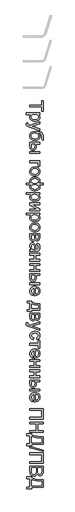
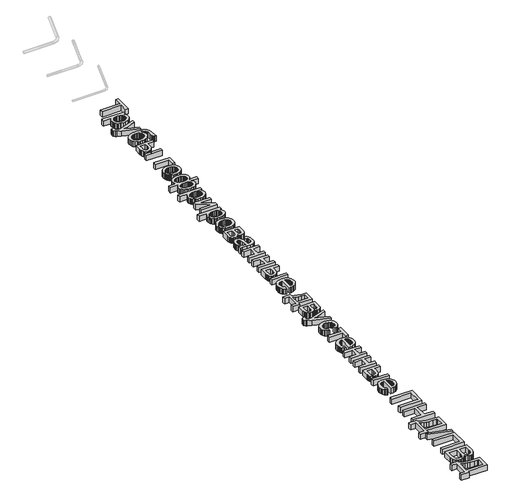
# One storey, part 28 of 33: 1 proxy.
"""IFC4 building model written with IfcOpenShell, lengths in millimetres."""

from ifc_helpers import new_model, si_unit, origin, origin_with_axes, place, context, project, spatial, polyline, outline, extrude, element, save

model = new_model("IFC4")

# Units and contexts
model_context = context("Model", 3, world=origin())
ifc_project = project(units=[si_unit("LENGTHUNIT", "METRE", prefix="MILLI")], contexts=[model_context])

# Site, building, storey
site = spatial("IfcSite", under=ifc_project)
building = spatial("IfcBuilding", under=site)
storey = spatial("IfcBuildingStorey", under=building, Name="Уровень 1", Elevation=0.0)

# Proxy
placement = place(None, origin())
element("IfcBuildingElementProxy", 1, Name="Надпись на модели 1", ObjectType="Надпись на модели 1", at=placement, inside=storey, context=model_context, shape_type="SweptSolid", body=[
    extrude(outline(polyline([(94024.4625724, -945.4132915), (94541.3856493, -945.4132915), (94541.3856493, -751.5671377), (94615.2318032, -751.5671377), (94615.2318032, -1213.1055992), (94541.3856493, -1213.1055992), (94541.3856493, -1019.2594454), (94024.4625724, -1019.2594454), (94024.4625724, -945.4132915)])), origin_with_axes(), (0.0, 0.0, 1.0), 150.0),
    extrude(outline(polyline([(93858.3087262, -1286.9517531), (94458.3087262, -1286.9517531), (94458.3087262, -1360.7979069), (94385.9048801, -1360.7979069), (94421.6200243, -1384.8844454), (94447.1308416, -1411.8555992), (94462.437332, -1443.2979069), (94467.5394955, -1480.7979069), (94465.7546397, -1506.5521136), (94460.4000724, -1530.7378107), (94451.4757936, -1553.3549982), (94438.9818032, -1574.4036761), (94423.2426205, -1593.4241088), (94404.5827647, -1609.9565607), (94383.0022359, -1624.0010319), (94358.5010339, -1635.5575223), (94304.0899762, -1651.0262723), (94244.702957, -1656.1825223), (94181.5479089, -1650.359205), (94152.4718873, -1643.0800583), (94125.0635339, -1632.8892531), (94100.0394955, -1619.9265127), (94078.1164186, -1604.3315607), (94059.2943032, -1586.1043973), (94043.5731493, -1565.2450223), (94031.1738104, -1542.7765728), (94022.3171397, -1519.7221857), (94017.0031373, -1496.0818612), (94015.2318032, -1471.8555992), (94019.9733897, -1437.9072819), (94034.1981493, -1407.6007915), (94055.6705051, -1381.6572819), (94082.1548801, -1360.7979069), (93858.3087262, -1360.7979069), (93858.3087262, -1286.9517531)]), holes=[polyline([(94237.9241109, -1360.7979069), (94202.3351686, -1362.7946016), (94171.7221878, -1368.7846857), (94146.0851686, -1378.7681593), (94125.4241109, -1392.7450223), (94109.5226686, -1409.570443), (94098.1644955, -1428.0995896), (94091.3495916, -1448.3324622), (94089.077957, -1470.2690607), (94091.4307214, -1492.5211641), (94098.4890147, -1513.1236281), (94110.2528368, -1532.0764526), (94126.7221878, -1549.3796377), (94148.1314426, -1563.7982074), (94174.7149762, -1574.0971857), (94206.4727887, -1580.2765728), (94243.4048801, -1582.3363684), (94278.687332, -1580.3261521), (94309.2462262, -1574.2955031), (94335.0815628, -1564.2444213), (94356.1933416, -1550.1729069), (94372.5995916, -1533.3069213), (94384.3183416, -1514.8724261), (94391.3495916, -1494.8694213), (94393.6933416, -1473.2979069), (94391.2008537, -1451.7940006), (94383.7233897, -1431.5611281), (94371.2609498, -1412.5992891), (94353.8135339, -1394.9084838), (94331.6155171, -1379.9851064), (94304.9012743, -1369.3255511), (94273.6708056, -1362.929818), (94237.9241109, -1360.7979069)])]), origin_with_axes(), (0.0, 0.0, 1.0), 150.0),
    extrude(outline(polyline([(93858.3087262, -1739.2594454), (93929.4144955, -1730.0286761), (93922.9241109, -1767.5286761), (93924.9613705, -1787.2522338), (93931.0731493, -1802.5767531), (93940.8267551, -1814.5118492), (93953.7894955, -1824.0671377), (94008.1644955, -1844.2594454), (94026.0491109, -1850.0286761), (94458.3087262, -1693.1055992), (94458.3087262, -1770.9902146), (94217.4433416, -1854.2113684), (94121.0971878, -1883.2017531), (94206.1933416, -1912.1921377), (94458.3087262, -1997.7209838), (94458.3087262, -2075.0286761), (94014.077957, -1924.0190607), (93917.7318032, -1884.7882915), (93886.9745916, -1864.7041569), (93865.6644955, -1841.9517531), (93853.2245916, -1815.5214646), (93849.077957, -1784.4036761), (93851.3856493, -1763.0214646), (93858.3087262, -1739.2594454)])), origin_with_axes(), (0.0, 0.0, 1.0), 150.0),
    extrude(outline(polyline([(94624.4625724, -2440.7979069), (94624.4625724, -2505.4132915), (94589.3604089, -2498.4180992), (94566.8423801, -2486.37483), (94553.5190628, -2469.6801184), (94546.0010339, -2448.7305992), (94542.5394955, -2414.5839646), (94541.3856493, -2358.2979069), (94537.1308416, -2283.2077627), (94531.812332, -2256.304217), (94524.3664186, -2236.4950223), (94514.5767551, -2221.3778348), (94502.2269955, -2208.5503107), (94487.3171397, -2198.0124502), (94469.8471878, -2189.7642531), (94426.9745916, -2178.7125704), (94373.3568032, -2173.9709838), (94414.6068032, -2203.6644934), (94444.0298801, -2237.93733), (94461.6620916, -2276.8255511), (94467.5394955, -2320.3652146), (94463.8030171, -2360.5965848), (94452.593582, -2397.2041569), (94433.9111902, -2430.1879309), (94407.7558416, -2459.5479069), (94375.227296, -2483.6524742), (94337.4253128, -2500.8700223), (94294.3498921, -2511.2005511), (94246.0010339, -2514.6440607), (94209.0148561, -2512.9358276), (94175.5082455, -2507.8111281), (94145.4812022, -2499.2699622), (94118.9337262, -2487.31233), (94074.9613705, -2457.4385319), (94042.2750724, -2422.4805992), (94030.4436421, -2402.0358877), (94021.9926205, -2378.2017531), (94016.9220075, -2350.9781954), (94015.2318032, -2320.3652146), (94017.4087863, -2284.9520535), (94023.9397359, -2253.7125704), (94034.8246517, -2226.6467651), (94050.0635339, -2203.7546377), (94068.6963464, -2184.1617891), (94089.7630532, -2166.9938204), (94113.2636541, -2152.2507314), (94139.1981493, -2139.9325223), (94171.3841469, -2130.2149742), (94213.6392551, -2123.2738684), (94265.9634738, -2119.109205), (94328.3568032, -2117.7209838), (94406.1107094, -2121.2230872), (94470.0455051, -2131.7293973), (94520.1611902, -2149.2399141), (94540.0368663, -2160.62175), (94556.4577647, -2173.7546377), (94582.1714065, -2205.5349862), (94600.5382936, -2244.8423781), (94611.5584258, -2291.6768131), (94615.2318032, -2346.0382915), (94616.890457, -2428.24983), (94619.6128128, -2436.2906954), (94624.4625724, -2440.7979069)]), holes=[polyline([(94248.3087262, -2440.7979069), (94278.8090267, -2438.796705), (94306.4156974, -2432.7930992), (94331.1287383, -2422.7870896), (94352.9481493, -2408.7786761), (94370.774171, -2391.1284357), (94383.5070436, -2370.1969454), (94391.1467671, -2345.984205), (94393.6933416, -2318.4902146), (94391.0025363, -2289.7973059), (94382.9301205, -2264.5839646), (94369.476094, -2242.8501906), (94350.640457, -2224.5959838), (94327.3066229, -2210.1458636), (94300.3580051, -2199.8243492), (94269.7946037, -2193.6314406), (94235.6164186, -2191.5671377), (94202.1503729, -2193.8477867), (94172.8580051, -2200.6897338), (94147.7393152, -2212.092979), (94126.7943032, -2228.0575223), (94110.2934017, -2247.3664165), (94098.5070436, -2268.8027146), (94091.4352287, -2292.3664165), (94089.077957, -2318.0575223), (94091.80482, -2344.1001906), (94099.9854089, -2367.5647338), (94113.6197238, -2388.4511521), (94132.7077647, -2406.7594454), (94156.2940027, -2421.6512723), (94183.4229089, -2432.2882915), (94214.0944835, -2438.6705031), (94248.3087262, -2440.7979069)])]), origin_with_axes(), (0.0, 0.0, 1.0), 150.0),
    extrude(outline(polyline([(94458.3087262, -2606.9517531), (94458.3087262, -2680.7979069), (94301.3856493, -2680.7979069), (94301.3856493, -2772.0959838), (94299.0734498, -2814.1077026), (94292.1368512, -2851.0082434), (94280.5758537, -2882.7976064), (94264.390457, -2909.4757915), (94244.1395556, -2930.5830631), (94220.3820436, -2945.6596857), (94193.117921, -2954.7056593), (94162.3471878, -2957.7209838), (94134.8937623, -2955.1924381), (94109.5046397, -2947.6068011), (94086.17982, -2934.9640728), (94064.9193032, -2917.2642531), (94047.2194835, -2894.0115487), (94034.5767551, -2864.7101665), (94026.9911181, -2829.3601064), (94024.4625724, -2787.9613684), (94024.4625724, -2606.9517531), (94458.3087262, -2606.9517531)]), holes=[polyline([(94098.3087262, -2680.7979069), (94098.3087262, -2756.6632915), (94102.1849282, -2815.4733877), (94107.0301806, -2837.4956232), (94113.8135339, -2854.5959838), (94122.6521758, -2867.405479), (94133.6632936, -2876.5551184), (94146.8468873, -2882.0449021), (94162.202957, -2883.87483), (94186.3255532, -2878.4481473), (94207.6356493, -2862.1680992), (94216.343582, -2848.037991), (94222.5635339, -2827.3543973), (94227.5394955, -2766.3267531), (94227.5394955, -2680.7979069), (94098.3087262, -2680.7979069)])]), origin_with_axes(), (0.0, 0.0, 1.0), 150.0),
    extrude(outline(polyline([(94458.3087262, -3013.1055992), (94458.3087262, -3086.9517531), (94024.4625724, -3086.9517531), (94024.4625724, -3013.1055992), (94458.3087262, -3013.1055992)])), origin_with_axes(), (0.0, 0.0, 1.0), 150.0),
    extrude(outline(polyline([(94458.3087262, -3428.4902146), (94458.3087262, -3668.4902146), (94384.4625724, -3668.4902146), (94384.4625724, -3502.3363684), (94024.4625724, -3502.3363684), (94024.4625724, -3428.4902146), (94458.3087262, -3428.4902146)])), origin_with_axes(), (0.0, 0.0, 1.0), 150.0),
    extrude(outline(polyline([(94241.3856493, -3705.4132915), (94297.5725484, -3709.4066809), (94345.9890147, -3721.3868492), (94386.6350484, -3741.3537963), (94419.5106493, -3769.3075223), (94440.5232695, -3797.4505511), (94455.5322839, -3828.5142531), (94464.5376926, -3862.4986281), (94467.5394955, -3899.4036761), (94463.8841469, -3940.1443612), (94452.9181012, -3976.9818011), (94434.6413585, -4009.9159958), (94409.0539186, -4038.9469454), (94377.0211662, -4062.6413564), (94339.4084859, -4079.5659357), (94296.2158777, -4089.7206833), (94247.4433416, -4093.1055992), (94207.9150964, -4091.609205), (94172.8399762, -4087.1200223), (94142.2179811, -4079.6380511), (94116.0491109, -4069.1632915), (94093.445445, -4055.8264526), (94073.5190628, -4039.7582434), (94056.2699642, -4020.9586641), (94041.6981493, -3999.4277146), (94030.1191229, -3976.0037362), (94021.8483897, -3951.5250704), (94016.8859498, -3925.991717), (94015.2318032, -3899.4036761), (94018.8736301, -3858.0680391), (94029.7991109, -3820.8880511), (94048.0082455, -3787.8637122), (94073.5010339, -3758.9950223), (94105.8447839, -3735.5530151), (94144.6068032, -3718.8087242), (94189.7870916, -3708.7621497), (94241.3856493, -3705.4132915)]), holes=[polyline([(94241.5298801, -3779.2594454), (94205.71107, -3781.3958636), (94174.6969474, -3787.8051184), (94148.4875123, -3798.4872098), (94127.0827647, -3813.4421377), (94110.4556613, -3831.6332434), (94098.5791589, -3852.0238684), (94091.4532575, -3874.6140127), (94089.077957, -3899.4036761), (94091.4667791, -3924.0671377), (94098.6332455, -3946.5671377), (94110.5773561, -3966.9036761), (94127.2991109, -3985.0767531), (94148.9156974, -4000.0316809), (94175.5443032, -4010.7137723), (94207.1849282, -4017.1230271), (94243.8375724, -4019.2594454), (94278.5205652, -4017.1095055), (94308.7233897, -4010.6596857), (94334.446046, -3999.9099862), (94355.6885339, -3984.8604069), (94372.3156373, -3966.6197218), (94384.1921397, -3946.296705), (94391.3180412, -3923.8913564), (94393.6933416, -3899.4036761), (94391.3270556, -3874.6140127), (94384.2281974, -3852.0238684), (94372.3967671, -3831.6332434), (94355.8327647, -3813.4421377), (94334.4911181, -3798.4872098), (94308.3267551, -3787.8051184), (94277.3396758, -3781.3958636), (94241.5298801, -3779.2594454)])]), origin_with_axes(), (0.0, 0.0, 1.0), 150.0),
    extrude(outline(polyline([(94615.2318032, -4425.4132915), (94615.2318032, -4499.2594454), (94416.6260339, -4499.2594454), (94439.0358897, -4521.6693011), (94454.9193032, -4546.2065607), (94464.3844474, -4572.7630511), (94467.5394955, -4601.2305992), (94463.5280772, -4635.4177987), (94451.4938224, -4665.8640127), (94431.4367311, -4692.569241), (94403.3568032, -4715.5334838), (94369.1921397, -4733.9905151), (94330.8808416, -4747.1741088), (94288.4229089, -4755.0842651), (94241.8183416, -4757.7209838), (94193.4875123, -4754.8814406), (94150.0334859, -4746.3628107), (94111.4562623, -4732.1650944), (94077.7558416, -4712.2882915), (94050.4015748, -4688.1927386), (94030.8628128, -4661.3387723), (94019.1395556, -4631.7263925), (94015.2318032, -4599.3555992), (94017.0346878, -4576.9637723), (94022.4433416, -4554.2113684), (94035.8928609, -4529.0070415), (94061.8183416, -4499.2594454), (93858.3087262, -4499.2594454), (93858.3087262, -4425.4132915), (94061.8183416, -4425.4132915), (94041.4818032, -4402.9493492), (94026.9144955, -4378.24983), (94018.1524762, -4351.3868492), (94015.2318032, -4322.4325223), (94018.9637743, -4290.4493492), (94030.1596878, -4260.5575223), (94048.8195436, -4232.7570415), (94074.9433416, -4207.0479069), (94108.0172599, -4185.4673781), (94147.5274762, -4170.0527146), (94193.4739907, -4160.8039165), (94245.8568032, -4157.7209838), (94291.0461061, -4160.5109478), (94332.4313224, -4168.8808396), (94370.0124522, -4182.8306593), (94403.7894955, -4202.3604069), (94431.6801205, -4226.6046978), (94451.6019955, -4254.6981473), (94463.5551205, -4286.6407555), (94467.5394955, -4322.4325223), (94464.3844474, -4352.5226665), (94454.9193032, -4379.6200223), (94439.0358897, -4403.8688204), (94416.6260339, -4425.4132915), (94615.2318032, -4425.4132915)]), holes=[polyline([(94240.0875724, -4498.8267531), (94199.0403969, -4500.3637122), (94165.3219474, -4504.9745896), (94138.9322238, -4512.6593853), (94119.8712262, -4523.4180992), (94106.399171, -4536.4935199), (94096.7762743, -4551.1284357), (94091.0025363, -4567.3228468), (94089.077957, -4585.0767531), (94091.4442431, -4604.804818), (94098.5431012, -4623.0274742), (94110.3745315, -4639.7447218), (94126.9385339, -4654.9565607), (94148.4875123, -4667.6083035), (94175.2738705, -4676.6452627), (94207.2976085, -4682.0674381), (94244.5587262, -4683.87483), (94279.8051205, -4682.2071617), (94310.2558416, -4677.2041569), (94335.9108897, -4668.8658156), (94356.7702647, -4657.1921377), (94372.9241109, -4642.9042771), (94384.4625724, -4626.7233877), (94391.3856493, -4608.6494694), (94393.6933416, -4588.6825223), (94391.2909979, -4567.710467), (94384.0839666, -4549.5058396), (94372.0722479, -4534.0686401), (94355.2558416, -4521.3988684), (94333.6437623, -4511.523568), (94307.2450243, -4504.4697819), (94276.0596277, -4500.2375103), (94240.0875724, -4498.8267531)]), polyline([(94247.4433416, -4231.5671377), (94208.2756734, -4233.4150944), (94175.0034378, -4238.9589646), (94147.6266349, -4248.1987482), (94126.1452647, -4261.1344454), (94109.9283176, -4276.8105271), (94098.3447839, -4294.2714646), (94091.3946637, -4313.5172579), (94089.077957, -4334.5479069), (94091.3811421, -4356.0337843), (94098.2906974, -4374.6260319), (94109.8066229, -4390.3246497), (94125.9289186, -4403.1296377), (94146.6575844, -4413.0680391), (94171.9926205, -4420.1668973), (94201.9340267, -4424.4262122), (94236.4818032, -4425.8459838), (94273.3282575, -4424.3540968), (94305.2618512, -4419.8784357), (94332.2825844, -4412.4190006), (94354.390457, -4401.9757915), (94371.585469, -4388.5217651), (94383.8676205, -4372.0298781), (94391.2369113, -4352.5001305), (94393.6933416, -4329.9325223), (94391.2955051, -4309.1632915), (94384.1019955, -4290.4132915), (94372.1128128, -4273.6825223), (94355.327957, -4258.9709838), (94334.1981493, -4246.9818011), (94309.1741109, -4238.4180992), (94280.2558416, -4233.2798781), (94247.4433416, -4231.5671377)])]), origin_with_axes(), (0.0, 0.0, 1.0), 150.0),
    extrude(outline(polyline([(93858.3087262, -4850.0286761), (94458.3087262, -4850.0286761), (94458.3087262, -4923.87483), (94385.9048801, -4923.87483), (94421.6200243, -4947.9613684), (94447.1308416, -4974.9325223), (94462.437332, -5006.37483), (94467.5394955, -5043.87483), (94465.7546397, -5069.6290367), (94460.4000724, -5093.8147338), (94451.4757936, -5116.4319213), (94438.9818032, -5137.4805992), (94423.2426205, -5156.5010319), (94404.5827647, -5173.0334838), (94383.0022359, -5187.077955), (94358.5010339, -5198.6344454), (94304.0899762, -5214.1031954), (94244.702957, -5219.2594454), (94181.5479089, -5213.4361281), (94152.4718873, -5206.1569814), (94125.0635339, -5195.9661761), (94100.0394955, -5183.0034357), (94078.1164186, -5167.4084838), (94059.2943032, -5149.1813204), (94043.5731493, -5128.3219454), (94031.1738104, -5105.8534958), (94022.3171397, -5082.7991088), (94017.0031373, -5059.1587843), (94015.2318032, -5034.9325223), (94019.9733897, -5000.984205), (94034.1981493, -4970.6777146), (94055.6705051, -4944.734205), (94082.1548801, -4923.87483), (93858.3087262, -4923.87483), (93858.3087262, -4850.0286761)]), holes=[polyline([(94237.9241109, -4923.87483), (94202.3351686, -4925.8715247), (94171.7221878, -4931.8616088), (94146.0851686, -4941.8450824), (94125.4241109, -4955.8219454), (94109.5226686, -4972.647366), (94098.1644955, -4991.1765127), (94091.3495916, -5011.4093853), (94089.077957, -5033.3459838), (94091.4307214, -5055.5980872), (94098.4890147, -5076.2005511), (94110.2528368, -5095.1533756), (94126.7221878, -5112.4565607), (94148.1314426, -5126.8751305), (94174.7149762, -5137.1741088), (94206.4727887, -5143.3534958), (94243.4048801, -5145.4132915), (94278.687332, -5143.4030752), (94309.2462262, -5137.3724261), (94335.0815628, -5127.3213444), (94356.1933416, -5113.24983), (94372.5995916, -5096.3838444), (94384.3183416, -5077.9493492), (94391.3495916, -5057.9463444), (94393.6933416, -5036.37483), (94391.2008537, -5014.8709237), (94383.7233897, -4994.6380511), (94371.2609498, -4975.6762122), (94353.8135339, -4957.9854069), (94331.6155171, -4943.0620295), (94304.9012743, -4932.4024742), (94273.6708056, -4926.006741), (94237.9241109, -4923.87483)])]), origin_with_axes(), (0.0, 0.0, 1.0), 150.0),
    extrude(outline(polyline([(94458.3087262, -5302.3363684), (94458.3087262, -5376.1825223), (94127.4433416, -5376.1825223), (94458.3087262, -5557.62483), (94458.3087262, -5653.1055992), (94024.4625724, -5653.1055992), (94024.4625724, -5579.2594454), (94353.3087262, -5579.2594454), (94024.4625724, -5398.9709838), (94024.4625724, -5302.3363684), (94458.3087262, -5302.3363684)])), origin_with_axes(), (0.0, 0.0, 1.0), 150.0),
    extrude(outline(polyline([(93858.3087262, -5763.87483), (94458.3087262, -5763.87483), (94458.3087262, -5837.7209838), (94385.9048801, -5837.7209838), (94421.6200243, -5861.8075223), (94447.1308416, -5888.7786761), (94462.437332, -5920.2209838), (94467.5394955, -5957.7209838), (94465.7546397, -5983.4751906), (94460.4000724, -6007.6608877), (94451.4757936, -6030.2780752), (94438.9818032, -6051.3267531), (94423.2426205, -6070.3471857), (94404.5827647, -6086.8796377), (94383.0022359, -6100.9241088), (94358.5010339, -6112.4805992), (94304.0899762, -6127.9493492), (94244.702957, -6133.1055992), (94181.5479089, -6127.2822819), (94152.4718873, -6120.0031353), (94125.0635339, -6109.81233), (94100.0394955, -6096.8495896), (94078.1164186, -6081.2546377), (94059.2943032, -6063.0274742), (94043.5731493, -6042.1680992), (94031.1738104, -6019.6996497), (94022.3171397, -5996.6452627), (94017.0031373, -5973.0049381), (94015.2318032, -5948.7786761), (94019.9733897, -5914.8303588), (94034.1981493, -5884.5238684), (94055.6705051, -5858.5803588), (94082.1548801, -5837.7209838), (93858.3087262, -5837.7209838), (93858.3087262, -5763.87483)]), holes=[polyline([(94237.9241109, -5837.7209838), (94202.3351686, -5839.7176785), (94171.7221878, -5845.7077627), (94146.0851686, -5855.6912362), (94125.4241109, -5869.6680992), (94109.5226686, -5886.4935199), (94098.1644955, -5905.0226665), (94091.3495916, -5925.2555391), (94089.077957, -5947.1921377), (94091.4307214, -5969.444241), (94098.4890147, -5990.046705), (94110.2528368, -6008.9995295), (94126.7221878, -6026.3027146), (94148.1314426, -6040.7212843), (94174.7149762, -6051.0202627), (94206.4727887, -6057.1996497), (94243.4048801, -6059.2594454), (94278.687332, -6057.249229), (94309.2462262, -6051.21858), (94335.0815628, -6041.1674982), (94356.1933416, -6027.0959838), (94372.5995916, -6010.2299982), (94384.3183416, -5991.7955031), (94391.3495916, -5971.7924982), (94393.6933416, -5950.2209838), (94391.2008537, -5928.7170776), (94383.7233897, -5908.484205), (94371.2609498, -5889.522366), (94353.8135339, -5871.8315607), (94331.6155171, -5856.9081833), (94304.9012743, -5846.2486281), (94273.6708056, -5839.8528949), (94237.9241109, -5837.7209838)])]), origin_with_axes(), (0.0, 0.0, 1.0), 150.0),
    extrude(outline(polyline([(94241.3856493, -6197.7209838), (94297.5725484, -6201.7143732), (94345.9890147, -6213.6945415), (94386.6350484, -6233.6614886), (94419.5106493, -6261.6152146), (94440.5232695, -6289.7582434), (94455.5322839, -6320.8219454), (94464.5376926, -6354.8063204), (94467.5394955, -6391.7113684), (94463.8841469, -6432.4520535), (94452.9181012, -6469.2894934), (94434.6413585, -6502.2236881), (94409.0539186, -6531.2546377), (94377.0211662, -6554.9490487), (94339.4084859, -6571.8736281), (94296.2158777, -6582.0283756), (94247.4433416, -6585.4132915), (94207.9150964, -6583.9168973), (94172.8399762, -6579.4277146), (94142.2179811, -6571.9457434), (94116.0491109, -6561.4709838), (94093.445445, -6548.1341449), (94073.5190628, -6532.0659357), (94056.2699642, -6513.2663564), (94041.6981493, -6491.7354069), (94030.1191229, -6468.3114285), (94021.8483897, -6443.8327627), (94016.8859498, -6418.2994093), (94015.2318032, -6391.7113684), (94018.8736301, -6350.3757314), (94029.7991109, -6313.1957434), (94048.0082455, -6280.1714045), (94073.5010339, -6251.3027146), (94105.8447839, -6227.8607074), (94144.6068032, -6211.1164165), (94189.7870916, -6201.069842), (94241.3856493, -6197.7209838)]), holes=[polyline([(94241.5298801, -6271.5671377), (94205.71107, -6273.7035559), (94174.6969474, -6280.1128107), (94148.4875123, -6290.7949021), (94127.0827647, -6305.74983), (94110.4556613, -6323.9409357), (94098.5791589, -6344.3315607), (94091.4532575, -6366.921705), (94089.077957, -6391.7113684), (94091.4667791, -6416.37483), (94098.6332455, -6438.87483), (94110.5773561, -6459.2113684), (94127.2991109, -6477.3844454), (94148.9156974, -6492.3393732), (94175.5443032, -6503.0214646), (94207.1849282, -6509.4307194), (94243.8375724, -6511.5671377), (94278.5205652, -6509.4171978), (94308.7233897, -6502.9673781), (94334.446046, -6492.2176785), (94355.6885339, -6477.1680992), (94372.3156373, -6458.9274141), (94384.1921397, -6438.6043973), (94391.3180412, -6416.1990487), (94393.6933416, -6391.7113684), (94391.3270556, -6366.921705), (94384.2281974, -6344.3315607), (94372.3967671, -6323.9409357), (94355.8327647, -6305.74983), (94334.4911181, -6290.7949021), (94308.3267551, -6280.1128107), (94277.3396758, -6273.7035559), (94241.5298801, -6271.5671377)])]), origin_with_axes(), (0.0, 0.0, 1.0), 150.0),
    extrude(outline(polyline([(94458.3087262, -6668.4902146), (94458.3087262, -6831.1825223), (94455.8387743, -6883.484205), (94448.4289186, -6920.3892531), (94434.4385339, -6947.5406954), (94412.2269955, -6970.5815607), (94383.2906974, -6986.3207434), (94349.1260339, -6991.5671377), (94321.5959859, -6988.3940607), (94297.8519955, -6978.87483), (94277.7858897, -6962.9733877), (94261.2894955, -6940.6536761), (94245.9469474, -6967.9854069), (94221.265457, -6990.2690607), (94189.1921397, -7005.0887723), (94151.6741109, -7010.0286761), (94121.4487503, -7005.9271136), (94095.3880532, -6997.5166569), (94073.4920195, -6984.7973059), (94055.7606493, -6967.7690607), (94042.0677407, -6946.4048781), (94032.2870916, -6920.6777146), (94026.4187022, -6890.5875704), (94024.4625724, -6856.1344454), (94024.4625724, -6668.4902146), (94458.3087262, -6668.4902146)]), holes=[polyline([(94292.1548801, -6742.3363684), (94292.1548801, -6815.3171377), (94295.9048801, -6875.5334838), (94301.5298801, -6891.0382915), (94310.9048801, -6904.81233), (94323.3087262, -6914.4938204), (94338.0202647, -6917.7209838), (94350.0184618, -6916.3057194), (94360.0515147, -6912.0599261), (94368.1194234, -6904.983604), (94374.2221878, -6895.0767531), (94381.9024762, -6864.3916569), (94384.4625724, -6817.62483), (94384.4625724, -6742.3363684), (94292.1548801, -6742.3363684)]), polyline([(94098.3087262, -6742.3363684), (94098.3087262, -6832.9132915), (94101.6440628, -6882.2762723), (94111.6500724, -6913.24983), (94119.5331854, -6922.8501906), (94129.8411782, -6929.8724261), (94157.7318032, -6936.1825223), (94176.2113705, -6933.0274742), (94193.2846878, -6923.56233), (94206.6440628, -6909.03108), (94213.9818032, -6890.6777146), (94218.3087262, -6825.7017531), (94218.3087262, -6742.3363684), (94098.3087262, -6742.3363684)])]), origin_with_axes(), (0.0, 0.0, 1.0), 150.0),
    extrude(outline(polyline([(94079.8471878, -7379.2594454), (94049.5947839, -7343.9769934), (94029.7991109, -7307.6488684), (94018.8736301, -7269.4457434), (94015.2318032, -7228.5382915), (94017.422308, -7195.6581833), (94023.9938224, -7166.8255511), (94034.9463464, -7142.0403949), (94050.2798801, -7121.3027146), (94069.0208657, -7104.9280151), (94090.1957455, -7093.2318011), (94113.8045195, -7086.2140728), (94139.8471878, -7083.87483), (94170.4601686, -7087.4084838), (94198.2606493, -7098.0094454), (94222.0587262, -7114.3616088), (94240.6644955, -7135.1488684), (94254.7269955, -7159.577955), (94264.8952647, -7186.8555992), (94276.0010339, -7250.74983), (94287.6837262, -7326.2546377), (94301.3856493, -7378.8267531), (94317.827957, -7379.2594454), (94350.7846878, -7374.1753107), (94362.9902166, -7367.8201425), (94372.3471878, -7358.9229069), (94381.6861301, -7343.5443011), (94388.3568032, -7324.81233), (94393.6933416, -7277.2882915), (94390.1416589, -7233.2979069), (94379.4866109, -7202.5767531), (94359.781082, -7181.6272338), (94329.077957, -7166.9517531), (94338.3087262, -7093.1055992), (94378.6933416, -7105.9241088), (94410.4241109, -7125.0527146), (94434.6909378, -7152.2762723), (94452.6837262, -7189.3796377), (94463.8255532, -7234.7582434), (94467.5394955, -7286.8075223), (94464.2582455, -7336.7293973), (94454.4144955, -7376.3027146), (94439.6128128, -7406.140455), (94421.4577647, -7426.8555992), (94399.0118512, -7440.59358), (94371.3375724, -7449.49983), (94306.7221878, -7453.1055992), (94214.8471878, -7453.1055992), (94086.5539186, -7456.8555992), (94054.8411782, -7462.4084838), (94024.4625724, -7471.5671377), (94024.4625724, -7397.7209838), (94050.1356493, -7385.8940607), (94079.8471878, -7379.2594454)]), holes=[polyline([(94227.5394955, -7379.2594454), (94215.2438224, -7329.6440607), (94204.8952647, -7260.12483), (94192.9241109, -7196.5911761), (94184.7390147, -7180.0587242), (94173.452957, -7167.8171377), (94159.9313224, -7160.2450223), (94145.0394955, -7157.7209838), (94123.0803609, -7163.2197819), (94105.0875724, -7179.7161761), (94093.0803609, -7206.8495896), (94089.077957, -7244.2594454), (94093.4950243, -7283.9229069), (94106.7462262, -7318.9709838), (94126.2714666, -7347.3844454), (94149.5106493, -7367.1440607), (94173.452957, -7375.90608), (94206.6260339, -7378.8267531), (94227.5394955, -7379.2594454)])]), origin_with_axes(), (0.0, 0.0, 1.0), 150.0),
    extrude(outline(polyline([(94458.3087262, -7554.6440607), (94458.3087262, -7628.4902146), (94292.1548801, -7628.4902146), (94292.1548801, -7822.3363684), (94458.3087262, -7822.3363684), (94458.3087262, -7896.1825223), (94024.4625724, -7896.1825223), (94024.4625724, -7822.3363684), (94218.3087262, -7822.3363684), (94218.3087262, -7628.4902146), (94024.4625724, -7628.4902146), (94024.4625724, -7554.6440607), (94458.3087262, -7554.6440607)])), origin_with_axes(), (0.0, 0.0, 1.0), 150.0),
    extrude(outline(polyline([(94458.3087262, -8006.9517531), (94458.3087262, -8080.7979069), (94292.1548801, -8080.7979069), (94292.1548801, -8274.6440607), (94458.3087262, -8274.6440607), (94458.3087262, -8348.4902146), (94024.4625724, -8348.4902146), (94024.4625724, -8274.6440607), (94218.3087262, -8274.6440607), (94218.3087262, -8080.7979069), (94024.4625724, -8080.7979069), (94024.4625724, -8006.9517531), (94458.3087262, -8006.9517531)])), origin_with_axes(), (0.0, 0.0, 1.0), 150.0),
    extrude(outline(polyline([(94458.3087262, -8459.2594454), (94458.3087262, -8533.1055992), (94301.3856493, -8533.1055992), (94301.3856493, -8624.4036761), (94299.0734498, -8666.4153949), (94292.1368512, -8703.3159357), (94280.5758537, -8735.1052987), (94264.390457, -8761.7834838), (94244.1395556, -8782.8907555), (94220.3820436, -8797.9673781), (94193.117921, -8807.0133516), (94162.3471878, -8810.0286761), (94134.8937623, -8807.5001305), (94109.5046397, -8799.9144934), (94086.17982, -8787.2717651), (94064.9193032, -8769.5719454), (94047.2194835, -8746.319241), (94034.5767551, -8717.0178588), (94026.9911181, -8681.6677987), (94024.4625724, -8640.2690607), (94024.4625724, -8459.2594454), (94458.3087262, -8459.2594454)]), holes=[polyline([(94098.3087262, -8533.1055992), (94098.3087262, -8608.9709838), (94102.1849282, -8667.78108), (94107.0301806, -8689.8033156), (94113.8135339, -8706.9036761), (94122.6521758, -8719.7131713), (94133.6632936, -8728.8628107), (94146.8468873, -8734.3525944), (94162.202957, -8736.1825223), (94186.3255532, -8730.7558396), (94207.6356493, -8714.4757915), (94216.343582, -8700.3456833), (94222.5635339, -8679.6620896), (94227.5394955, -8618.6344454), (94227.5394955, -8533.1055992), (94098.3087262, -8533.1055992)])]), origin_with_axes(), (0.0, 0.0, 1.0), 150.0),
    extrude(outline(polyline([(94458.3087262, -8865.4132915), (94458.3087262, -8939.2594454), (94024.4625724, -8939.2594454), (94024.4625724, -8865.4132915), (94458.3087262, -8865.4132915)])), origin_with_axes(), (0.0, 0.0, 1.0), 150.0),
    extrude(outline(polyline([(94153.6933416, -9353.7786761), (94144.4625724, -9426.1825223), (94115.4631734, -9415.0812603), (94089.9072839, -9400.0947819), (94067.7949041, -9381.2230872), (94049.1260339, -9358.4661761), (94034.297308, -9332.0584237), (94023.7053609, -9302.234205), (94017.3501926, -9268.9935199), (94015.2318032, -9232.3363684), (94018.8871517, -9186.5160559), (94029.8531974, -9145.6897338), (94048.1299402, -9109.8574021), (94073.7173801, -9079.0190607), (94105.9033777, -9054.2203829), (94143.9757936, -9036.5070415), (94187.9346277, -9025.8790367), (94237.7798801, -9022.3363684), (94289.3153368, -9025.9150944), (94334.7390147, -9036.6512723), (94374.0509137, -9054.5449021), (94407.2510339, -9079.5959838), (94433.6272359, -9110.3531954), (94452.4673801, -9145.3652146), (94463.7714666, -9184.6320415), (94467.5394955, -9228.1536761), (94463.7804811, -9270.273568), (94452.5034378, -9308.3640127), (94433.7083657, -9342.4250103), (94407.3952647, -9372.4565607), (94374.2672599, -9396.9712843), (94335.0274762, -9414.4818011), (94289.6759137, -9424.9881112), (94238.2125724, -9428.4902146), (94218.3087262, -9428.0575223), (94218.3087262, -9096.1825223), (94188.8405772, -9100.459866), (94163.0322839, -9108.9649742), (94140.8838464, -9121.6978468), (94122.3952647, -9138.6584838), (94107.8189426, -9158.9093853), (94097.4072839, -9181.5130511), (94091.1602887, -9206.4694814), (94089.077957, -9233.7786761), (94092.9361301, -9273.0815607), (94104.5106493, -9306.1825223), (94124.5226686, -9333.0815607), (94153.6933416, -9353.7786761)]), holes=[polyline([(94292.1548801, -9096.1825223), (94292.1548801, -9354.6440607), (94331.1693032, -9344.65608), (94346.5118512, -9336.0653348), (94359.077957, -9325.0767531), (94374.2221878, -9304.9385319), (94385.0394955, -9282.0238684), (94391.5298801, -9256.3327627), (94393.6933416, -9227.8652146), (94391.9670796, -9201.8991689), (94386.7882936, -9178.0875704), (94378.1569835, -9156.4304189), (94366.0731493, -9136.9277146), (94351.0956854, -9120.5620295), (94333.7834859, -9108.3159357), (94314.1365508, -9100.1894333), (94292.1548801, -9096.1825223)])]), origin_with_axes(), (0.0, 0.0, 1.0), 150.0),
    extrude(outline(polyline([(94458.3087262, -9797.7209838), (94458.3087262, -10074.6440607), (94098.3087262, -10074.6440607), (94098.3087262, -10130.0286761), (93904.4625724, -10130.0286761), (93904.4625724, -10056.1825223), (94024.4625724, -10056.1825223), (94024.4625724, -9751.5671377), (93904.4625724, -9751.5671377), (93904.4625724, -9677.7209838), (94098.3087262, -9677.7209838), (94098.3087262, -9723.87483), (94126.1768152, -9741.9081833), (94158.9397359, -9757.4265127), (94196.5974883, -9770.429818), (94239.1500724, -9780.9180992), (94338.9397359, -9794.3495896), (94458.3087262, -9797.7209838)]), holes=[polyline([(94384.4625724, -9862.3363684), (94294.0479089, -9856.2786761), (94216.2173801, -9845.0286761), (94150.9709859, -9828.5863684), (94098.3087262, -9806.9517531), (94098.3087262, -10000.7979069), (94384.4625724, -10000.7979069), (94384.4625724, -9862.3363684)])]), origin_with_axes(), (0.0, 0.0, 1.0), 150.0),
    extrude(outline(polyline([(94458.3087262, -10213.1055992), (94458.3087262, -10375.7979069), (94455.8387743, -10428.0995896), (94448.4289186, -10465.0046377), (94434.4385339, -10492.15608), (94412.2269955, -10515.1969454), (94383.2906974, -10530.9361281), (94349.1260339, -10536.1825223), (94321.5959859, -10533.0094454), (94297.8519955, -10523.4902146), (94277.7858897, -10507.5887723), (94261.2894955, -10485.2690607), (94245.9469474, -10512.6007915), (94221.265457, -10534.8844454), (94189.1921397, -10549.7041569), (94151.6741109, -10554.6440607), (94121.4487503, -10550.5424982), (94095.3880532, -10542.1320415), (94073.4920195, -10529.4126906), (94055.7606493, -10512.3844454), (94042.0677407, -10491.0202627), (94032.2870916, -10465.2930992), (94026.4187022, -10435.202955), (94024.4625724, -10400.74983), (94024.4625724, -10213.1055992), (94458.3087262, -10213.1055992)]), holes=[polyline([(94292.1548801, -10286.9517531), (94292.1548801, -10359.9325223), (94295.9048801, -10420.1488684), (94301.5298801, -10435.6536761), (94310.9048801, -10449.4277146), (94323.3087262, -10459.109205), (94338.0202647, -10462.3363684), (94350.0184618, -10460.921104), (94360.0515147, -10456.6753107), (94368.1194234, -10449.5989886), (94374.2221878, -10439.6921377), (94381.9024762, -10409.0070415), (94384.4625724, -10362.2402146), (94384.4625724, -10286.9517531), (94292.1548801, -10286.9517531)]), polyline([(94098.3087262, -10286.9517531), (94098.3087262, -10377.5286761), (94101.6440628, -10426.8916569), (94111.6500724, -10457.8652146), (94119.5331854, -10467.4655752), (94129.8411782, -10474.4878107), (94157.7318032, -10480.7979069), (94176.2113705, -10477.6428588), (94193.2846878, -10468.1777146), (94206.6440628, -10453.6464646), (94213.9818032, -10435.2930992), (94218.3087262, -10370.3171377), (94218.3087262, -10286.9517531), (94098.3087262, -10286.9517531)])]), origin_with_axes(), (0.0, 0.0, 1.0), 150.0),
    extrude(outline(polyline([(93858.3087262, -10646.9517531), (93929.4144955, -10637.7209838), (93922.9241109, -10675.2209838), (93924.9613705, -10694.9445415), (93931.0731493, -10710.2690607), (93940.8267551, -10722.2041569), (93953.7894955, -10731.7594454), (94008.1644955, -10751.9517531), (94026.0491109, -10757.7209838), (94458.3087262, -10600.7979069), (94458.3087262, -10678.6825223), (94217.4433416, -10761.9036761), (94121.0971878, -10790.8940607), (94206.1933416, -10819.8844454), (94458.3087262, -10905.4132915), (94458.3087262, -10982.7209838), (94014.077957, -10831.7113684), (93917.7318032, -10792.4805992), (93886.9745916, -10772.3964646), (93865.6644955, -10749.6440607), (93853.2245916, -10723.2137723), (93849.077957, -10692.0959838), (93851.3856493, -10670.7137723), (93858.3087262, -10646.9517531)])), origin_with_axes(), (0.0, 0.0, 1.0), 150.0),
    extrude(outline(polyline([(94181.3856493, -11320.7979069), (94172.1548801, -11394.6440607), (94137.3096277, -11386.6122098), (94106.4757936, -11374.0551184), (94079.6533777, -11356.9727867), (94056.8423801, -11335.3652146), (94038.6377527, -11310.1428588), (94025.6344474, -11282.2161761), (94017.8324642, -11251.5851665), (94015.2318032, -11218.24983), (94018.8601085, -11176.8330631), (94029.7450243, -11139.6981473), (94047.8865508, -11106.8450824), (94073.2846878, -11078.2738684), (94105.461671, -11055.147366), (94143.9397359, -11038.6284357), (94188.7188825, -11028.7170776), (94239.7991109, -11025.4132915), (94305.5142551, -11031.0563204), (94335.08607, -11038.1101064), (94362.4673801, -11047.9854069), (94387.1083056, -11060.74983), (94408.4589666, -11076.4709838), (94426.5193633, -11095.1488684), (94441.2894955, -11116.7834838), (94452.7738705, -11140.3967651), (94460.9769955, -11165.0106473), (94465.8988705, -11190.6251305), (94467.5394955, -11217.2402146), (94465.2858897, -11250.0031353), (94458.5250724, -11279.6380511), (94447.2570436, -11306.1449622), (94431.4818032, -11329.5238684), (94411.5599282, -11349.3781353), (94387.8519955, -11365.3111281), (94360.3580051, -11377.3228468), (94329.077957, -11385.4132915), (94319.8471878, -11311.5671377), (94352.0647359, -11298.171705), (94375.1596878, -11277.31233), (94389.0599282, -11250.1428588), (94393.6933416, -11217.8171377), (94391.4126926, -11192.725491), (94384.5707455, -11170.0947819), (94373.1675003, -11149.9250103), (94357.202957, -11132.2161761), (94336.3075243, -11117.7976064), (94310.1116109, -11107.4986281), (94278.6152166, -11101.319241), (94241.8183416, -11099.2594454), (94204.4670796, -11101.2741689), (94172.6056012, -11107.3183396), (94146.2339065, -11117.3919574), (94125.3519955, -11131.4950223), (94109.4821037, -11148.8522939), (94098.1464666, -11168.6885319), (94091.3450844, -11191.0037362), (94089.077957, -11215.7979069), (94094.7390147, -11254.0370896), (94101.8153368, -11270.5740487), (94111.7221878, -11285.3892531), (94124.5677407, -11298.0680391), (94140.4601686, -11308.1957434), (94159.3994714, -11315.772366), (94181.3856493, -11320.7979069)])), origin_with_axes(), (0.0, 0.0, 1.0), 150.0),
    extrude(outline(polyline([(94458.3087262, -11422.3363684), (94458.3087262, -11773.1055992), (94384.4625724, -11773.1055992), (94384.4625724, -11634.6440607), (94024.4625724, -11634.6440607), (94024.4625724, -11560.7979069), (94384.4625724, -11560.7979069), (94384.4625724, -11422.3363684), (94458.3087262, -11422.3363684)])), origin_with_axes(), (0.0, 0.0, 1.0), 150.0),
    extrude(outline(polyline([(94153.6933416, -12141.4709838), (94144.4625724, -12213.87483), (94115.4631734, -12202.773568), (94089.9072839, -12187.7870896), (94067.7949041, -12168.9153949), (94049.1260339, -12146.1584838), (94034.297308, -12119.7507314), (94023.7053609, -12089.9265127), (94017.3501926, -12056.6858276), (94015.2318032, -12020.0286761), (94018.8871517, -11974.2083636), (94029.8531974, -11933.3820415), (94048.1299402, -11897.5497098), (94073.7173801, -11866.7113684), (94105.9033777, -11841.9126906), (94143.9757936, -11824.1993492), (94187.9346277, -11813.5713444), (94237.7798801, -11810.0286761), (94289.3153368, -11813.6074021), (94334.7390147, -11824.34358), (94374.0509137, -11842.2372098), (94407.2510339, -11867.2882915), (94433.6272359, -11898.0455031), (94452.4673801, -11933.0575223), (94463.7714666, -11972.3243492), (94467.5394955, -12015.8459838), (94463.7804811, -12057.9658756), (94452.5034378, -12096.0563204), (94433.7083657, -12130.117318), (94407.3952647, -12160.1488684), (94374.2672599, -12184.663592), (94335.0274762, -12202.1741088), (94289.6759137, -12212.6804189), (94238.2125724, -12216.1825223), (94218.3087262, -12215.74983), (94218.3087262, -11883.87483), (94188.8405772, -11888.1521737), (94163.0322839, -11896.6572819), (94140.8838464, -11909.3901545), (94122.3952647, -11926.3507915), (94107.8189426, -11946.601693), (94097.4072839, -11969.2053588), (94091.1602887, -11994.1617891), (94089.077957, -12021.4709838), (94092.9361301, -12060.7738684), (94104.5106493, -12093.87483), (94124.5226686, -12120.7738684), (94153.6933416, -12141.4709838)]), holes=[polyline([(94292.1548801, -11883.87483), (94292.1548801, -12142.3363684), (94331.1693032, -12132.3483877), (94346.5118512, -12123.7576425), (94359.077957, -12112.7690607), (94374.2221878, -12092.6308396), (94385.0394955, -12069.7161761), (94391.5298801, -12044.0250704), (94393.6933416, -12015.5575223), (94391.9670796, -11989.5914766), (94386.7882936, -11965.7798781), (94378.1569835, -11944.1227266), (94366.0731493, -11924.6200223), (94351.0956854, -11908.2543372), (94333.7834859, -11896.0082434), (94314.1365508, -11887.881741), (94292.1548801, -11883.87483)])]), origin_with_axes(), (0.0, 0.0, 1.0), 150.0),
    extrude(outline(polyline([(94458.3087262, -12290.0286761), (94458.3087262, -12363.87483), (94292.1548801, -12363.87483), (94292.1548801, -12557.7209838), (94458.3087262, -12557.7209838), (94458.3087262, -12631.5671377), (94024.4625724, -12631.5671377), (94024.4625724, -12557.7209838), (94218.3087262, -12557.7209838), (94218.3087262, -12363.87483), (94024.4625724, -12363.87483), (94024.4625724, -12290.0286761), (94458.3087262, -12290.0286761)])), origin_with_axes(), (0.0, 0.0, 1.0), 150.0),
    extrude(outline(polyline([(94458.3087262, -12742.3363684), (94458.3087262, -12816.1825223), (94292.1548801, -12816.1825223), (94292.1548801, -13010.0286761), (94458.3087262, -13010.0286761), (94458.3087262, -13083.87483), (94024.4625724, -13083.87483), (94024.4625724, -13010.0286761), (94218.3087262, -13010.0286761), (94218.3087262, -12816.1825223), (94024.4625724, -12816.1825223), (94024.4625724, -12742.3363684), (94458.3087262, -12742.3363684)])), origin_with_axes(), (0.0, 0.0, 1.0), 150.0),
    extrude(outline(polyline([(94458.3087262, -13194.6440607), (94458.3087262, -13268.4902146), (94301.3856493, -13268.4902146), (94301.3856493, -13359.7882915), (94299.0734498, -13401.8000103), (94292.1368512, -13438.7005511), (94280.5758537, -13470.4899141), (94264.390457, -13497.1680992), (94244.1395556, -13518.2753708), (94220.3820436, -13533.3519934), (94193.117921, -13542.397967), (94162.3471878, -13545.4132915), (94134.8937623, -13542.8847458), (94109.5046397, -13535.2991088), (94086.17982, -13522.6563805), (94064.9193032, -13504.9565607), (94047.2194835, -13481.7038564), (94034.5767551, -13452.4024742), (94026.9911181, -13417.0524141), (94024.4625724, -13375.6536761), (94024.4625724, -13194.6440607), (94458.3087262, -13194.6440607)]), holes=[polyline([(94098.3087262, -13268.4902146), (94098.3087262, -13344.3555992), (94102.1849282, -13403.1656954), (94107.0301806, -13425.1879309), (94113.8135339, -13442.2882915), (94122.6521758, -13455.0977867), (94133.6632936, -13464.2474261), (94146.8468873, -13469.7372098), (94162.202957, -13471.5671377), (94186.3255532, -13466.140455), (94207.6356493, -13449.8604069), (94216.343582, -13435.7302987), (94222.5635339, -13415.046705), (94227.5394955, -13354.0190607), (94227.5394955, -13268.4902146), (94098.3087262, -13268.4902146)])]), origin_with_axes(), (0.0, 0.0, 1.0), 150.0),
    extrude(outline(polyline([(94458.3087262, -13600.7979069), (94458.3087262, -13674.6440607), (94024.4625724, -13674.6440607), (94024.4625724, -13600.7979069), (94458.3087262, -13600.7979069)])), origin_with_axes(), (0.0, 0.0, 1.0), 150.0),
    extrude(outline(polyline([(94153.6933416, -14089.1632915), (94144.4625724, -14161.5671377), (94115.4631734, -14150.4658756), (94089.9072839, -14135.4793973), (94067.7949041, -14116.6077026), (94049.1260339, -14093.8507915), (94034.297308, -14067.4430391), (94023.7053609, -14037.6188204), (94017.3501926, -14004.3781353), (94015.2318032, -13967.7209838), (94018.8871517, -13921.9006713), (94029.8531974, -13881.0743492), (94048.1299402, -13845.2420175), (94073.7173801, -13814.4036761), (94105.9033777, -13789.6049982), (94143.9757936, -13771.8916569), (94187.9346277, -13761.2636521), (94237.7798801, -13757.7209838), (94289.3153368, -13761.2997098), (94334.7390147, -13772.0358877), (94374.0509137, -13789.9295175), (94407.2510339, -13814.9805992), (94433.6272359, -13845.7378107), (94452.4673801, -13880.74983), (94463.7714666, -13920.0166569), (94467.5394955, -13963.5382915), (94463.7804811, -14005.6581833), (94452.5034378, -14043.7486281), (94433.7083657, -14077.8096256), (94407.3952647, -14107.8411761), (94374.2672599, -14132.3558997), (94335.0274762, -14149.8664165), (94289.6759137, -14160.3727266), (94238.2125724, -14163.87483), (94218.3087262, -14163.4421377), (94218.3087262, -13831.5671377), (94188.8405772, -13835.8444814), (94163.0322839, -13844.3495896), (94140.8838464, -13857.0824622), (94122.3952647, -13874.0430992), (94107.8189426, -13894.2940006), (94097.4072839, -13916.8976665), (94091.1602887, -13941.8540968), (94089.077957, -13969.1632915), (94092.9361301, -14008.4661761), (94104.5106493, -14041.5671377), (94124.5226686, -14068.4661761), (94153.6933416, -14089.1632915)]), holes=[polyline([(94292.1548801, -13831.5671377), (94292.1548801, -14090.0286761), (94331.1693032, -14080.0406954), (94346.5118512, -14071.4499502), (94359.077957, -14060.4613684), (94374.2221878, -14040.3231473), (94385.0394955, -14017.4084838), (94391.5298801, -13991.7173781), (94393.6933416, -13963.24983), (94391.9670796, -13937.2837843), (94386.7882936, -13913.4721857), (94378.1569835, -13891.8150343), (94366.0731493, -13872.31233), (94351.0956854, -13855.9466449), (94333.7834859, -13843.7005511), (94314.1365508, -13835.5740487), (94292.1548801, -13831.5671377)])]), origin_with_axes(), (0.0, 0.0, 1.0), 150.0),
    extrude(outline(polyline([(94615.2318032, -14477.7209838), (94615.2318032, -14939.2594454), (94024.4625724, -14939.2594454), (94024.4625724, -14865.4132915), (94541.3856493, -14865.4132915), (94541.3856493, -14551.5671377), (94024.4625724, -14551.5671377), (94024.4625724, -14477.7209838), (94615.2318032, -14477.7209838)])), origin_with_axes(), (0.0, 0.0, 1.0), 150.0),
    extrude(outline(polyline([(94024.4625724, -15068.4902146), (94615.2318032, -15068.4902146), (94615.2318032, -15142.3363684), (94375.2318032, -15142.3363684), (94375.2318032, -15456.1825223), (94615.2318032, -15456.1825223), (94615.2318032, -15530.0286761), (94024.4625724, -15530.0286761), (94024.4625724, -15456.1825223), (94301.3856493, -15456.1825223), (94301.3856493, -15142.3363684), (94024.4625724, -15142.3363684), (94024.4625724, -15068.4902146)])), origin_with_axes(), (0.0, 0.0, 1.0), 150.0),
    extrude(outline(polyline([(94615.2318032, -15714.6440607), (94615.2318032, -16065.4132915), (94098.3087262, -16065.4132915), (94098.3087262, -16120.7979069), (93886.0010339, -16120.7979069), (93886.0010339, -16046.9517531), (94024.4625724, -16046.9517531), (94024.4625724, -15668.4902146), (93886.0010339, -15668.4902146), (93886.0010339, -15594.6440607), (94098.3087262, -15594.6440607), (94098.3087262, -15640.7979069), (94128.3966169, -15658.1055992), (94165.2949041, -15673.1055992), (94209.003588, -15685.7979069), (94259.5226686, -15696.1825223), (94380.9920195, -15710.0286761), (94529.702957, -15714.6440607), (94615.2318032, -15714.6440607)]), holes=[polyline([(94541.3856493, -15991.5671377), (94541.3856493, -15788.4902146), (94511.6741109, -15788.4902146), (94424.0899762, -15784.7402146), (94309.3183416, -15773.4902146), (94247.9932214, -15764.18733), (94192.3832455, -15751.2786761), (94142.4884137, -15734.7642531), (94098.3087262, -15714.6440607), (94098.3087262, -15991.5671377), (94541.3856493, -15991.5671377)])]), origin_with_axes(), (0.0, 0.0, 1.0), 150.0),
    extrude(outline(polyline([(94024.4625724, -16148.4902146), (94615.2318032, -16314.6440607), (94615.2318032, -16381.2786761), (94024.4625724, -16215.12483), (94024.4625724, -16148.4902146)])), origin_with_axes(), (0.0, 0.0, 1.0), 150.0),
    extrude(outline(polyline([(94615.2318032, -16443.87483), (94615.2318032, -16905.4132915), (94024.4625724, -16905.4132915), (94024.4625724, -16831.5671377), (94541.3856493, -16831.5671377), (94541.3856493, -16517.7209838), (94024.4625724, -16517.7209838), (94024.4625724, -16443.87483), (94615.2318032, -16443.87483)])), origin_with_axes(), (0.0, 0.0, 1.0), 150.0),
    extrude(outline(polyline([(94024.4625724, -17034.6440607), (94615.2318032, -17034.6440607), (94615.2318032, -17260.0767531), (94610.8868512, -17322.077955), (94597.8519955, -17370.4854069), (94575.8027166, -17407.5887723), (94561.2759738, -17422.7600463), (94544.4144955, -17435.6777146), (94507.4914186, -17453.3640127), (94468.8375724, -17459.2594454), (94433.2666589, -17454.3015127), (94399.8231493, -17439.4277146), (94370.562332, -17414.5298781), (94347.5394955, -17379.49983), (94338.0382936, -17401.787991), (94325.6885339, -17421.3447819), (94310.4902166, -17438.1702026), (94292.4433416, -17452.2642531), (94272.0977887, -17463.4015728), (94250.0034378, -17471.3568011), (94226.1602887, -17476.1299381), (94200.5683416, -17477.7209838), (94159.3724282, -17473.3760319), (94121.1693032, -17460.3411761), (94088.6813224, -17440.8880511), (94064.6308416, -17417.2882915), (94047.2149762, -17388.3880511), (94034.6308416, -17353.0334838), (94027.0046397, -17310.0707434), (94024.4625724, -17258.3459838), (94024.4625724, -17034.6440607)]), holes=[polyline([(94375.2318032, -17108.4902146), (94375.2318032, -17243.3459838), (94376.8183416, -17290.5094454), (94381.577957, -17322.0959838), (94392.5214666, -17349.6620896), (94408.9096878, -17369.4757915), (94430.4902166, -17381.4289165), (94457.0106493, -17385.4132915), (94482.7558416, -17381.6993492), (94505.1837262, -17370.5575223), (94522.6897359, -17352.4926184), (94533.6693032, -17328.0094454), (94539.4565628, -17290.43733), (94541.3856493, -17233.1055992), (94541.3856493, -17108.4902146), (94375.2318032, -17108.4902146)]), polyline([(94098.3087262, -17108.4902146), (94098.3087262, -17259.9325223), (94101.1933416, -17314.7402146), (94107.593582, -17340.1789165), (94117.2750724, -17361.1104069), (94131.1392551, -17378.1296377), (94150.0875724, -17391.8315607), (94173.2726686, -17400.8640127), (94199.8471878, -17403.87483), (94230.7125724, -17400.3411761), (94257.2510339, -17389.7402146), (94278.0022359, -17371.2245896), (94291.5058416, -17343.9469454), (94298.9156974, -17305.3111281), (94301.3856493, -17252.7209838), (94301.3856493, -17108.4902146), (94098.3087262, -17108.4902146)])]), origin_with_axes(), (0.0, 0.0, 1.0), 150.0),
    extrude(outline(polyline([(94615.2318032, -17634.6440607), (94615.2318032, -17985.4132915), (94098.3087262, -17985.4132915), (94098.3087262, -18040.7979069), (93886.0010339, -18040.7979069), (93886.0010339, -17966.9517531), (94024.4625724, -17966.9517531), (94024.4625724, -17588.4902146), (93886.0010339, -17588.4902146), (93886.0010339, -17514.6440607), (94098.3087262, -17514.6440607), (94098.3087262, -17560.7979069), (94128.3966169, -17578.1055992), (94165.2949041, -17593.1055992), (94209.003588, -17605.7979069), (94259.5226686, -17616.1825223), (94380.9920195, -17630.0286761), (94529.702957, -17634.6440607), (94615.2318032, -17634.6440607)]), holes=[polyline([(94541.3856493, -17911.5671377), (94541.3856493, -17708.4902146), (94511.6741109, -17708.4902146), (94424.0899762, -17704.7402146), (94309.3183416, -17693.4902146), (94247.9932214, -17684.18733), (94192.3832455, -17671.2786761), (94142.4884137, -17654.7642531), (94098.3087262, -17634.6440607), (94098.3087262, -17911.5671377), (94541.3856493, -17911.5671377)])]), origin_with_axes(), (0.0, 0.0, 1.0), 150.0),
])

save(model, "model.ifc")
